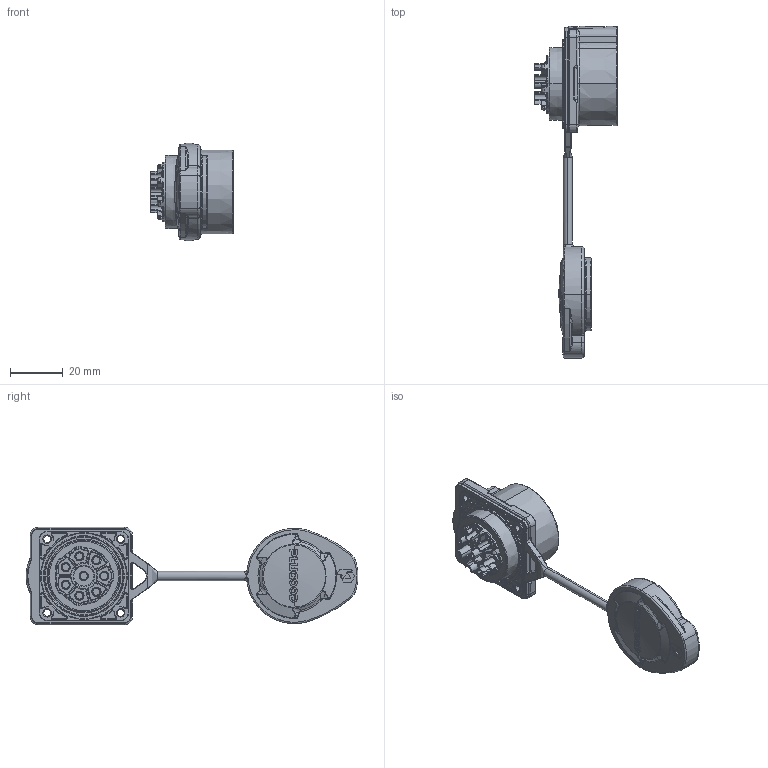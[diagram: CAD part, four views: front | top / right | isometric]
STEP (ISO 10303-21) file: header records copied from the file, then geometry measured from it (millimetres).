
FILE_DESCRIPTION (( 'STEP AP203' ), '1' );
FILE_NAME ('PLG28 8芯2.6四孔插座正装.STEP', '2026-06-03T09:21:55', ( '微软用户' ), ( '微软中国' ), 'SwSTEP 2.0', 'SolidWorks 2024', '' );
FILE_SCHEMA (( 'CONFIG_CONTROL_DESIGN' ));
Length unit declared in the file: millimetre
Products named in the file (1): PLG28 8芯2.6四孔插座正装
Bounding box: 31.5 x 126.27 x 37 mm (x, y, z)
Volume: 24506.4 mm3; surface area: 19822.2 mm2
Topology: 8 solids, 9 shells, 2578 faces, 6575 edges, 3995 vertices
Faces by surface type: cylinder 799, bspline 710, plane 643, torus 273, cone 141, sphere 12
Entity records: 94099 total; most frequent: CARTESIAN_POINT 36589, ORIENTED_EDGE 13000, DIRECTION 11048, EDGE_CURVE 6500, AXIS2_PLACEMENT_3D 4402, VERTEX_POINT 3995, EDGE_LOOP 2671, ADVANCED_FACE 2578
